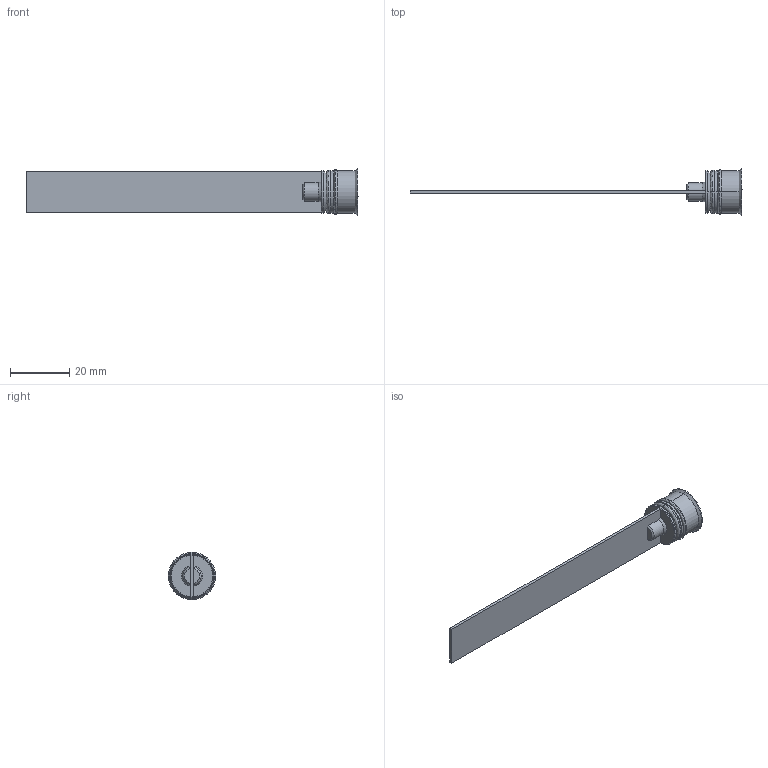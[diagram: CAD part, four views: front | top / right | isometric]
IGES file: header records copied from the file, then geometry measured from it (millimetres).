
Start section: START RECORD GO HERE.
Global section: file name: RL-14x100.igs; native system: DASSAULT SYSTEMES CATIA V5 R20 - www.3ds.com; preprocessor: CATIA Version 5 Release 20 ; author: Utente; organization: NB04-ASUS; date: 20210303.200222; units: millimetre
Bounding box: 112.5 x 16 x 16 mm (x, y, z)
Surface area: 4353.5 mm2 (no closed solid volume)
Topology: 0 solids, 0 shells, 65 faces, 364 edges, 364 vertices
Faces by surface type: revolution 38, plane 27
